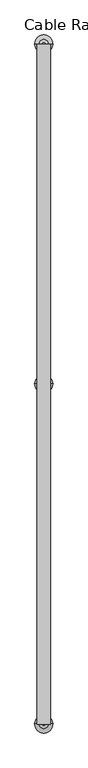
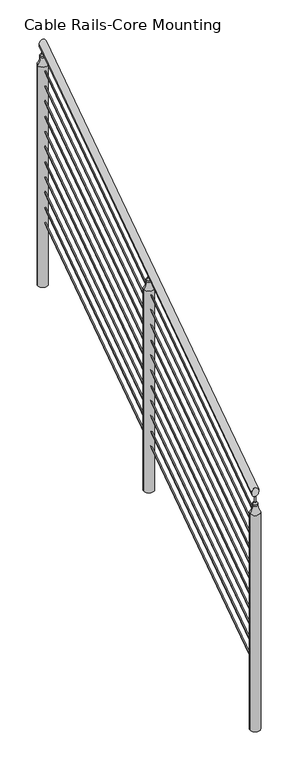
"""IFC4 building model written with IfcOpenShell, lengths in millimetres: railing geometry, Cable Rails-Core Mounting."""

import ifcopenshell
import ifcopenshell.guid

model = None  # the IFC model being written
_history = None  # IfcOwnerHistory: only IFC2X3 demands one
_inside = {}  # id of a spatial element -> (the spatial element, [elements in it])
_under = {}  # id of a project, library or spatial element -> (it, [spatial elements below it])
_declared = {}  # id of a project -> (the project, [libraries it declares])
_typed = {}  # id of a type object -> (the type object, [elements of that type])
_made_of = {}  # id of a material, layer set ... -> (it, [elements and type objects made of it])


def new_model(schema):
    """Start an empty IFC model of exactly this schema.

    Asked for "IFC4X3", IfcOpenShell would pick the latest addendum, in which some entities
    have other attributes; the version numbers below select the first issue.
    IFC2X3 requires an IfcOwnerHistory on every rooted entity: one is made here for all.
    """
    global model, _history
    if schema == "IFC4X3":
        model = ifcopenshell.file(schema_version=(4, 3, 0, 0))
    else:
        model = ifcopenshell.file(schema=schema)
    _inside.clear()
    _under.clear()
    _declared.clear()
    _typed.clear()
    _made_of.clear()
    _history = None
    if model.schema == "IFC2X3":
        org = make("IfcOrganization", Name="unknown")
        user = make(
            "IfcPersonAndOrganization",
            ThePerson=make("IfcPerson", FamilyName="unknown"),
            TheOrganization=org,
        )
        app = make(
            "IfcApplication",
            ApplicationDeveloper=org,
            Version="unknown",
            ApplicationFullName="unknown",
            ApplicationIdentifier="unknown",
        )
        _history = make(
            "IfcOwnerHistory",
            OwningUser=user,
            OwningApplication=app,
            ChangeAction="ADDED",
            CreationDate=0,
        )
    return model


def make(cls, **values):
    """One entity of the class cls with the attributes given. An attribute that is None is left unset."""
    return model.create_entity(
        cls, **{name: value for name, value in values.items() if value is not None}
    )


def rooted(cls, **values):
    """An entity with a GlobalId (a new one), such as an element, a storey or a relation."""
    return make(cls, GlobalId=ifcopenshell.guid.new(), OwnerHistory=_history, **values)


def si_unit(unit_type, name, prefix=None):
    """IfcSIUnit, for example si_unit("LENGTHUNIT", "METRE", prefix="MILLI")."""
    return make("IfcSIUnit", UnitType=unit_type, Prefix=prefix, Name=name)


def assignment(units):
    """IfcUnitAssignment: the units of a project."""
    return None if units is None else make("IfcUnitAssignment", Units=units)


def point(xyz):
    """IfcCartesianPoint."""
    return None if xyz is None else make("IfcCartesianPoint", Coordinates=xyz)


def direction(xyz):
    """IfcDirection."""
    return None if xyz is None else make("IfcDirection", DirectionRatios=xyz)


def frame(location, z_axis=None, x_axis=None):
    """IfcAxis2Placement3D, a coordinate frame: its origin and axes. An axis left out is left unset."""
    return make(
        "IfcAxis2Placement3D",
        Location=point(location),
        Axis=direction(z_axis),
        RefDirection=direction(x_axis),
    )


def origin():
    """The frame at (0, 0, 0) with its axes left unset."""
    return frame((0.0, 0.0, 0.0))


def place(relative_to, where):
    """IfcLocalPlacement: puts the frame where relative to a parent placement (None: the world)."""
    return make(
        "IfcLocalPlacement", PlacementRelTo=relative_to, RelativePlacement=where
    )


def context(
    kind, dimensions, precision=None, world=None, true_north=None, identifier=None
):
    """IfcGeometricRepresentationContext, for example the 3D "Model" context."""
    return make(
        "IfcGeometricRepresentationContext",
        ContextIdentifier=identifier,
        ContextType=kind,
        CoordinateSpaceDimension=dimensions,
        Precision=precision,
        WorldCoordinateSystem=world,
        TrueNorth=true_north,
    )


def project(units=None, contexts=None):
    """IfcProject with its units and contexts."""
    return rooted(
        "IfcProject",
        Name="project",
        RepresentationContexts=contexts,
        UnitsInContext=assignment(units),
    )


def spatial(cls, under=None, at=None, **own):
    """A site, building, storey or space (cls), placed at a placement, below another one or the project."""
    s = rooted(cls, ObjectPlacement=at, **own)
    if under is not None:
        _under.setdefault(under.id(), (under, []))[1].append(s)
    return s


def circle_curve(where, radius):
    """IfcCircle in the frame where."""
    return make("IfcCircle", Position=where, Radius=radius)


def ellipse_curve(where, semi_axis1, semi_axis2):
    """IfcEllipse in the frame where."""
    return make(
        "IfcEllipse", Position=where, SemiAxis1=semi_axis1, SemiAxis2=semi_axis2
    )


def trimmed(basis, trim1, trim2, sense, master):
    """IfcTrimmedCurve: the piece of a basis curve between two trims."""
    return make(
        "IfcTrimmedCurve",
        BasisCurve=basis,
        Trim1=trim1,
        Trim2=trim2,
        SenseAgreement=sense,
        MasterRepresentation=master,
    )


def shape(context_of_items, identifier, shape_type, items):
    """IfcShapeRepresentation: the items that make up one representation, for example the "Body"."""
    return make(
        "IfcShapeRepresentation",
        ContextOfItems=context_of_items,
        RepresentationIdentifier=identifier,
        RepresentationType=shape_type,
        Items=items,
    )


def source(mapping_origin, context_of_items, identifier, shape_type, items):
    """IfcRepresentationMap: a shape defined once, which mapped items show again and again."""
    return make(
        "IfcRepresentationMap",
        MappingOrigin=mapping_origin,
        MappedRepresentation=shape(context_of_items, identifier, shape_type, items),
    )


def transform(
    local_origin,
    x_axis=None,
    y_axis=None,
    z_axis=None,
    scale=None,
    scale2=None,
    scale3=None,
    uniform=True,
):
    """IfcCartesianTransformationOperator3D, or its non-uniform kind. x_axis, y_axis, z_axis: its Axis1, 2, 3."""
    if uniform:
        return make(
            "IfcCartesianTransformationOperator3D",
            Axis1=direction(x_axis),
            Axis2=direction(y_axis),
            LocalOrigin=point(local_origin),
            Scale=scale,
            Axis3=direction(z_axis),
        )
    return make(
        "IfcCartesianTransformationOperator3DnonUniform",
        Axis1=direction(x_axis),
        Axis2=direction(y_axis),
        LocalOrigin=point(local_origin),
        Scale=scale,
        Axis3=direction(z_axis),
        Scale2=scale2,
        Scale3=scale3,
    )


def mapped(mapping_source, mapping_target):
    """IfcMappedItem: shows the shape of a source again, moved by a transform."""
    return make(
        "IfcMappedItem", MappingSource=mapping_source, MappingTarget=mapping_target
    )


def made_of(thing, what):
    """Note that an element or type object is made of a material, layer set ...; save() writes the relation."""
    if what is not None:
        _made_of.setdefault(what.id(), (what, []))[1].append(thing)
    return thing


def element(
    cls,
    number,
    at=None,
    inside=None,
    cuts=None,
    type_object=None,
    material=None,
    context=None,
    identifier="Body",
    shape_type=None,
    held_by="IfcProductDefinitionShape",
    body=None,
    shapes=None,
    **own,
):
    """One element of the class cls, such as IfcWall. Its Tag is "e" and its number.

    at: its placement. inside: the storey or other place that contains it. cuts: it is an
    opening in that element (IfcRelVoidsElement). A single representation is given by context,
    identifier, shape_type and body (its items); several are given by shapes. held_by: the class
    of the entity that holds the representations. save() writes the other relations.
    """
    e = rooted(cls, Tag="e%d" % number, ObjectPlacement=at, **own)
    if body is not None:
        shapes = [shape(context, identifier, shape_type, body)]
    if shapes is not None:
        e.Representation = make(held_by, Representations=shapes)
    if inside is not None:
        _inside.setdefault(inside.id(), (inside, []))[1].append(e)
    if cuts is not None:
        rooted(
            "IfcRelVoidsElement", RelatingBuildingElement=cuts, RelatedOpeningElement=e
        )
    if type_object is not None:
        _typed.setdefault(type_object.id(), (type_object, []))[1].append(e)
    return made_of(e, material)


def aggregate(whole, parts):
    """IfcRelAggregates: a whole, such as a stair, and the parts it consists of."""
    return rooted("IfcRelAggregates", RelatingObject=whole, RelatedObjects=parts)


def save(model, path):
    """Write the relations noted so far, then the file.

    IfcRelAggregates (storeys below a building ...), IfcRelContainedInSpatialStructure (elements
    in a storey), IfcRelDefinesByType, IfcRelAssociatesMaterial and IfcRelDeclares: one each for
    every whole, place, type object, material and project.
    """
    for whole, parts in _under.values():
        aggregate(whole, parts)
    for where, things in _inside.values():
        rooted(
            "IfcRelContainedInSpatialStructure",
            RelatedElements=things,
            RelatingStructure=where,
        )
    for kind, things in _typed.values():
        rooted("IfcRelDefinesByType", RelatedObjects=things, RelatingType=kind)
    for what, things in _made_of.values():
        rooted("IfcRelAssociatesMaterial", RelatedObjects=things, RelatingMaterial=what)
    for by, libraries in _declared.values():
        rooted("IfcRelDeclares", RelatingContext=by, RelatedDefinitions=libraries)
    model.write(path)


def plane_surface(at):
    """IfcPlane: the flat surface through the origin of the frame at, square to its z axis."""
    return make("IfcPlane", Position=at)


def cylinder_surface(at, radius):
    """IfcCylindricalSurface: all points at the distance radius from the z axis of the frame at."""
    return make("IfcCylindricalSurface", Position=at, Radius=radius)


def revolved_surface(curve, axis_point, axis_direction):
    """IfcSurfaceOfRevolution: the curve turned about the line through axis_point along axis_direction."""
    return make(
        "IfcSurfaceOfRevolution",
        SweptCurve=make("IfcArbitraryOpenProfileDef", ProfileType="CURVE", Curve=curve),
        AxisPosition=make("IfcAxis1Placement", Location=point(axis_point), Axis=direction(axis_direction)),
    )


def advanced_brep(points, edges, surfaces, faces):
    """IfcAdvancedBrep: a solid bounded by faces that lie on surfaces and meet in shared edges.

    An edge is (start, end): straight between two places in points (the first is 0);
    or (start, end, curve); or (start, end, curve, False) where it runs against its curve.
    A face is (place in surfaces, loops), or (place, loops, False) where it looks against
    its surface's normal. A loop lists edges by number (the first is 1), with a minus sign
    where the edge is run from its end to its start. The first loop is the outer one.
    """
    corners = [point(p) for p in points]
    vertices = [make("IfcVertexPoint", VertexGeometry=c) for c in corners]
    made = []
    for start, end, *more in edges:
        made.append(
            make(
                "IfcEdgeCurve",
                EdgeStart=vertices[start],
                EdgeEnd=vertices[end],
                EdgeGeometry=more[0] if more else make("IfcPolyline", Points=[corners[start], corners[end]]),
                SameSense=more[1] if len(more) > 1 else True,
            )
        )
    hull = []
    for where, loops, *sense in faces:
        bounds = []
        for j, loop in enumerate(loops):
            ring = [make("IfcOrientedEdge", EdgeElement=made[abs(k) - 1], Orientation=k > 0) for k in loop]
            bounds.append(
                make(
                    "IfcFaceOuterBound" if j == 0 else "IfcFaceBound",
                    Bound=make("IfcEdgeLoop", EdgeList=ring),
                    Orientation=True,
                )
            )
        hull.append(make("IfcAdvancedFace", Bounds=bounds, FaceSurface=surfaces[where], SameSense=sense[0] if sense else True))
    return make("IfcAdvancedBrep", Outer=make("IfcClosedShell", CfsFaces=hull))


def cable_rails_core_mounting_428c031e(model_context):
    return source(origin(), model_context, "Body", "AdvancedBrep", [
        advanced_brep(
        [(-10574.4554092, -3318.9650713, 2829.8170412), (-10536.3554092, -3318.9650713, 2829.8170412), (-10574.4554092, -1420.3150713, 4119.5162709), (-10536.3554092, -1420.3150713, 4119.5162709)],
        [
            (0, 1, ellipse_curve(frame((-10555.4054092, -3318.9650713, 2829.8170412), z_axis=(0.0, -1.0, 0.0), x_axis=(0.0, 0.0, -1.0)), 23.0293153, 19.05)),
            (1, 0, ellipse_curve(frame((-10555.4054092, -3318.9650713, 2829.8170412), z_axis=(0.0, -1.0, 0.0), x_axis=(0.0, 0.0, -1.0)), 23.0293153, 19.05)),
            (2, 3, ellipse_curve(frame((-10555.4054092, -1420.3150713, 4119.5162709), z_axis=(0.0, 1.0, 0.0), x_axis=(0.0, 0.0, -1.0)), 23.0293153, 19.05)),
            (3, 2, ellipse_curve(frame((-10555.4054092, -1420.3150713, 4119.5162709), z_axis=(0.0, 1.0, 0.0), x_axis=(0.0, 0.0, -1.0)), 23.0293153, 19.05)),
            (0, 2),
            (3, 1),
        ],
        [
            plane_surface(frame((-10555.4054092, -3318.9650713, 2852.8463565), z_axis=(0.0, -1.0, 0.0), x_axis=(0.0, 0.0, 1.0))),
            plane_surface(frame((-10555.4054092, -1420.3150713, 4142.5455862), z_axis=(0.0, 1.0, 0.0), x_axis=(0.0, 0.0, 1.0))),
            cylinder_surface(frame((-10555.4054092, -3308.2609145, 2837.0880721), z_axis=(0.0, -0.8272065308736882, -0.5618979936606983), x_axis=(1.0, 0.0, 0.0)), 19.05),
        ],
        [
            (0, [[1, 2]]),
            (1, [[3, 4]]),
            (2, [[-1, 5, -4, 6]]),
            (2, [[-2, -6, -3, -5]]),
        ],
    ),
        advanced_brep(
        [(-10558.5804092, -3318.9650713, 2709.3081373), (-10552.2304092, -3318.9650713, 2709.3081373), (-10558.5804092, -1420.3150713, 3999.007367), (-10552.2304092, -1420.3150713, 3999.007367)],
        [
            (0, 1, ellipse_curve(frame((-10555.4054092, -3318.9650713, 2709.3081373), z_axis=(0.0, -1.0, 0.0), x_axis=(0.0, 0.0, -1.0)), 3.8382192, 3.175)),
            (1, 0, ellipse_curve(frame((-10555.4054092, -3318.9650713, 2709.3081373), z_axis=(0.0, -1.0, 0.0), x_axis=(0.0, 0.0, -1.0)), 3.8382192, 3.175)),
            (2, 3, ellipse_curve(frame((-10555.4054092, -1420.3150713, 3999.007367), z_axis=(0.0, 1.0, 0.0), x_axis=(0.0, 0.0, -1.0)), 3.8382192, 3.175)),
            (3, 2, ellipse_curve(frame((-10555.4054092, -1420.3150713, 3999.007367), z_axis=(0.0, 1.0, 0.0), x_axis=(0.0, 0.0, -1.0)), 3.8382192, 3.175)),
            (0, 2),
            (3, 1),
        ],
        [
            plane_surface(frame((-10555.4054092, -3318.9650713, 2713.1463565), z_axis=(0.0, -1.0, 0.0), x_axis=(0.0, 0.0, 1.0))),
            plane_surface(frame((-10555.4054092, -1420.3150713, 4002.8455862), z_axis=(0.0, 1.0, 0.0), x_axis=(0.0, 0.0, 1.0))),
            cylinder_surface(frame((-10555.4054092, -3317.1810451, 2710.5199758), z_axis=(0.0, -0.8272065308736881, -0.5618979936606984), x_axis=(1.0, 0.0, 0.0)), 3.175),
        ],
        [
            (0, [[1, 2]]),
            (1, [[3, 4]]),
            (2, [[-1, 5, -4, 6]]),
            (2, [[-2, -6, -3, -5]]),
        ],
    ),
        advanced_brep(
        [(-10558.5804092, -3318.9650713, 2626.7581373), (-10552.2304092, -3318.9650713, 2626.7581373), (-10558.5804092, -1420.3150713, 3916.457367), (-10552.2304092, -1420.3150713, 3916.457367)],
        [
            (0, 1, ellipse_curve(frame((-10555.4054092, -3318.9650713, 2626.7581373), z_axis=(0.0, -1.0, 0.0), x_axis=(0.0, 0.0, -1.0)), 3.8382192, 3.175)),
            (1, 0, ellipse_curve(frame((-10555.4054092, -3318.9650713, 2626.7581373), z_axis=(0.0, -1.0, 0.0), x_axis=(0.0, 0.0, -1.0)), 3.8382192, 3.175)),
            (2, 3, ellipse_curve(frame((-10555.4054092, -1420.3150713, 3916.457367), z_axis=(0.0, 1.0, 0.0), x_axis=(0.0, 0.0, -1.0)), 3.8382192, 3.175)),
            (3, 2, ellipse_curve(frame((-10555.4054092, -1420.3150713, 3916.457367), z_axis=(0.0, 1.0, 0.0), x_axis=(0.0, 0.0, -1.0)), 3.8382192, 3.175)),
            (0, 2),
            (3, 1),
        ],
        [
            plane_surface(frame((-10555.4054092, -3318.9650713, 2630.5963565), z_axis=(0.0, -1.0, 0.0), x_axis=(0.0, 0.0, 1.0))),
            plane_surface(frame((-10555.4054092, -1420.3150713, 3920.2955862), z_axis=(0.0, 1.0, 0.0), x_axis=(0.0, 0.0, 1.0))),
            cylinder_surface(frame((-10555.4054092, -3317.1810451, 2627.9699758), z_axis=(0.0, -0.8272065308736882, -0.5618979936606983), x_axis=(1.0, 0.0, 0.0)), 3.175),
        ],
        [
            (0, [[1, 2]]),
            (1, [[3, 4]]),
            (2, [[-1, 5, -4, 6]]),
            (2, [[-2, -6, -3, -5]]),
        ],
    ),
        advanced_brep(
        [(-10558.5804092, -3318.9650713, 2544.2081373), (-10552.2304092, -3318.9650713, 2544.2081373), (-10558.5804092, -1420.3150713, 3833.907367), (-10552.2304092, -1420.3150713, 3833.907367)],
        [
            (0, 1, ellipse_curve(frame((-10555.4054092, -3318.9650713, 2544.2081373), z_axis=(0.0, -1.0, 0.0), x_axis=(0.0, 0.0, -1.0)), 3.8382192, 3.175)),
            (1, 0, ellipse_curve(frame((-10555.4054092, -3318.9650713, 2544.2081373), z_axis=(0.0, -1.0, 0.0), x_axis=(0.0, 0.0, -1.0)), 3.8382192, 3.175)),
            (2, 3, ellipse_curve(frame((-10555.4054092, -1420.3150713, 3833.907367), z_axis=(0.0, 1.0, 0.0), x_axis=(0.0, 0.0, -1.0)), 3.8382192, 3.175)),
            (3, 2, ellipse_curve(frame((-10555.4054092, -1420.3150713, 3833.907367), z_axis=(0.0, 1.0, 0.0), x_axis=(0.0, 0.0, -1.0)), 3.8382192, 3.175)),
            (0, 2),
            (3, 1),
        ],
        [
            plane_surface(frame((-10555.4054092, -3318.9650713, 2548.0463565), z_axis=(0.0, -1.0, 0.0), x_axis=(0.0, 0.0, 1.0))),
            plane_surface(frame((-10555.4054092, -1420.3150713, 3837.7455862), z_axis=(0.0, 1.0, 0.0), x_axis=(0.0, 0.0, 1.0))),
            cylinder_surface(frame((-10555.4054092, -3317.1810451, 2545.4199758), z_axis=(0.0, -0.8272065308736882, -0.5618979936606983), x_axis=(1.0, 0.0, 0.0)), 3.175),
        ],
        [
            (0, [[1, 2]]),
            (1, [[3, 4]]),
            (2, [[-1, 5, -4, 6]]),
            (2, [[-2, -6, -3, -5]]),
        ],
    ),
        advanced_brep(
        [(-10558.5804092, -3318.9650713, 2461.6581373), (-10552.2304092, -3318.9650713, 2461.6581373), (-10558.5804092, -1420.3150713, 3751.357367), (-10552.2304092, -1420.3150713, 3751.357367)],
        [
            (0, 1, ellipse_curve(frame((-10555.4054092, -3318.9650713, 2461.6581373), z_axis=(0.0, -1.0, 0.0), x_axis=(0.0, 0.0, -1.0)), 3.8382192, 3.175)),
            (1, 0, ellipse_curve(frame((-10555.4054092, -3318.9650713, 2461.6581373), z_axis=(0.0, -1.0, 0.0), x_axis=(0.0, 0.0, -1.0)), 3.8382192, 3.175)),
            (2, 3, ellipse_curve(frame((-10555.4054092, -1420.3150713, 3751.357367), z_axis=(0.0, 1.0, 0.0), x_axis=(0.0, 0.0, -1.0)), 3.8382192, 3.175)),
            (3, 2, ellipse_curve(frame((-10555.4054092, -1420.3150713, 3751.357367), z_axis=(0.0, 1.0, 0.0), x_axis=(0.0, 0.0, -1.0)), 3.8382192, 3.175)),
            (0, 2),
            (3, 1),
        ],
        [
            plane_surface(frame((-10555.4054092, -3318.9650713, 2465.4963565), z_axis=(0.0, -1.0, 0.0), x_axis=(0.0, 0.0, 1.0))),
            plane_surface(frame((-10555.4054092, -1420.3150713, 3755.1955862), z_axis=(0.0, 1.0, 0.0), x_axis=(0.0, 0.0, 1.0))),
            cylinder_surface(frame((-10555.4054092, -3317.1810451, 2462.8699758), z_axis=(0.0, -0.8272065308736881, -0.5618979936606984), x_axis=(1.0, 0.0, 0.0)), 3.175),
        ],
        [
            (0, [[1, 2]]),
            (1, [[3, 4]]),
            (2, [[-1, 5, -4, 6]]),
            (2, [[-2, -6, -3, -5]]),
        ],
    ),
        advanced_brep(
        [(-10558.5804092, -3318.9650713, 2379.1081373), (-10552.2304092, -3318.9650713, 2379.1081373), (-10558.5804092, -1420.3150713, 3668.807367), (-10552.2304092, -1420.3150713, 3668.807367)],
        [
            (0, 1, ellipse_curve(frame((-10555.4054092, -3318.9650713, 2379.1081373), z_axis=(0.0, -1.0, 0.0), x_axis=(0.0, 0.0, -1.0)), 3.8382192, 3.175)),
            (1, 0, ellipse_curve(frame((-10555.4054092, -3318.9650713, 2379.1081373), z_axis=(0.0, -1.0, 0.0), x_axis=(0.0, 0.0, -1.0)), 3.8382192, 3.175)),
            (2, 3, ellipse_curve(frame((-10555.4054092, -1420.3150713, 3668.807367), z_axis=(0.0, 1.0, 0.0), x_axis=(0.0, 0.0, -1.0)), 3.8382192, 3.175)),
            (3, 2, ellipse_curve(frame((-10555.4054092, -1420.3150713, 3668.807367), z_axis=(0.0, 1.0, 0.0), x_axis=(0.0, 0.0, -1.0)), 3.8382192, 3.175)),
            (0, 2),
            (3, 1),
        ],
        [
            plane_surface(frame((-10555.4054092, -3318.9650713, 2382.9463565), z_axis=(0.0, -1.0, 0.0), x_axis=(0.0, 0.0, 1.0))),
            plane_surface(frame((-10555.4054092, -1420.3150713, 3672.6455862), z_axis=(0.0, 1.0, 0.0), x_axis=(0.0, 0.0, 1.0))),
            cylinder_surface(frame((-10555.4054092, -3317.1810451, 2380.3199758), z_axis=(0.0, -0.8272065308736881, -0.5618979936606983), x_axis=(1.0, 0.0, 0.0)), 3.175),
        ],
        [
            (0, [[1, 2]]),
            (1, [[3, 4]]),
            (2, [[-1, 5, -4, 6]]),
            (2, [[-2, -6, -3, -5]]),
        ],
    ),
        advanced_brep(
        [(-10558.5804092, -3318.9650713, 2296.5581373), (-10552.2304092, -3318.9650713, 2296.5581373), (-10558.5804092, -1420.3150713, 3586.257367), (-10552.2304092, -1420.3150713, 3586.257367)],
        [
            (0, 1, ellipse_curve(frame((-10555.4054092, -3318.9650713, 2296.5581373), z_axis=(0.0, -1.0, 0.0), x_axis=(0.0, 0.0, -1.0)), 3.8382192, 3.175)),
            (1, 0, ellipse_curve(frame((-10555.4054092, -3318.9650713, 2296.5581373), z_axis=(0.0, -1.0, 0.0), x_axis=(0.0, 0.0, -1.0)), 3.8382192, 3.175)),
            (2, 3, ellipse_curve(frame((-10555.4054092, -1420.3150713, 3586.257367), z_axis=(0.0, 1.0, 0.0), x_axis=(0.0, 0.0, -1.0)), 3.8382192, 3.175)),
            (3, 2, ellipse_curve(frame((-10555.4054092, -1420.3150713, 3586.257367), z_axis=(0.0, 1.0, 0.0), x_axis=(0.0, 0.0, -1.0)), 3.8382192, 3.175)),
            (0, 2),
            (3, 1),
        ],
        [
            plane_surface(frame((-10555.4054092, -3318.9650713, 2300.3963565), z_axis=(0.0, -1.0, 0.0), x_axis=(0.0, 0.0, 1.0))),
            plane_surface(frame((-10555.4054092, -1420.3150713, 3590.0955862), z_axis=(0.0, 1.0, 0.0), x_axis=(0.0, 0.0, 1.0))),
            cylinder_surface(frame((-10555.4054092, -3317.1810451, 2297.7699758), z_axis=(0.0, -0.8272065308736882, -0.5618979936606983), x_axis=(1.0, 0.0, 0.0)), 3.175),
        ],
        [
            (0, [[1, 2]]),
            (1, [[3, 4]]),
            (2, [[-1, 5, -4, 6]]),
            (2, [[-2, -6, -3, -5]]),
        ],
    ),
        advanced_brep(
        [(-10558.5804092, -3318.9650713, 2214.0081373), (-10552.2304092, -3318.9650713, 2214.0081373), (-10558.5804092, -1420.3150713, 3503.707367), (-10552.2304092, -1420.3150713, 3503.707367)],
        [
            (0, 1, ellipse_curve(frame((-10555.4054092, -3318.9650713, 2214.0081373), z_axis=(0.0, -1.0, 0.0), x_axis=(0.0, 0.0, -1.0)), 3.8382192, 3.175)),
            (1, 0, ellipse_curve(frame((-10555.4054092, -3318.9650713, 2214.0081373), z_axis=(0.0, -1.0, 0.0), x_axis=(0.0, 0.0, -1.0)), 3.8382192, 3.175)),
            (2, 3, ellipse_curve(frame((-10555.4054092, -1420.3150713, 3503.707367), z_axis=(0.0, 1.0, 0.0), x_axis=(0.0, 0.0, -1.0)), 3.8382192, 3.175)),
            (3, 2, ellipse_curve(frame((-10555.4054092, -1420.3150713, 3503.707367), z_axis=(0.0, 1.0, 0.0), x_axis=(0.0, 0.0, -1.0)), 3.8382192, 3.175)),
            (0, 2),
            (3, 1),
        ],
        [
            plane_surface(frame((-10555.4054092, -3318.9650713, 2217.8463565), z_axis=(0.0, -1.0, 0.0), x_axis=(0.0, 0.0, 1.0))),
            plane_surface(frame((-10555.4054092, -1420.3150713, 3507.5455862), z_axis=(0.0, 1.0, 0.0), x_axis=(0.0, 0.0, 1.0))),
            cylinder_surface(frame((-10555.4054092, -3317.1810451, 2215.2199758), z_axis=(0.0, -0.8272065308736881, -0.5618979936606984), x_axis=(1.0, 0.0, 0.0)), 3.175),
        ],
        [
            (0, [[1, 2]]),
            (1, [[3, 4]]),
            (2, [[-1, 5, -4, 6]]),
            (2, [[-2, -6, -3, -5]]),
        ],
    ),
        advanced_brep(
        [(-10558.5804092, -3318.9650713, 2131.4581373), (-10552.2304092, -3318.9650713, 2131.4581373), (-10558.5804092, -1420.3150713, 3421.157367), (-10552.2304092, -1420.3150713, 3421.157367)],
        [
            (0, 1, ellipse_curve(frame((-10555.4054092, -3318.9650713, 2131.4581373), z_axis=(0.0, -1.0, 0.0), x_axis=(0.0, 0.0, -1.0)), 3.8382192, 3.175)),
            (1, 0, ellipse_curve(frame((-10555.4054092, -3318.9650713, 2131.4581373), z_axis=(0.0, -1.0, 0.0), x_axis=(0.0, 0.0, -1.0)), 3.8382192, 3.175)),
            (2, 3, ellipse_curve(frame((-10555.4054092, -1420.3150713, 3421.157367), z_axis=(0.0, 1.0, 0.0), x_axis=(0.0, 0.0, -1.0)), 3.8382192, 3.175)),
            (3, 2, ellipse_curve(frame((-10555.4054092, -1420.3150713, 3421.157367), z_axis=(0.0, 1.0, 0.0), x_axis=(0.0, 0.0, -1.0)), 3.8382192, 3.175)),
            (0, 2),
            (3, 1),
        ],
        [
            plane_surface(frame((-10555.4054092, -3318.9650713, 2135.2963565), z_axis=(0.0, -1.0, 0.0), x_axis=(0.0, 0.0, 1.0))),
            plane_surface(frame((-10555.4054092, -1420.3150713, 3424.9955862), z_axis=(0.0, 1.0, 0.0), x_axis=(0.0, 0.0, 1.0))),
            cylinder_surface(frame((-10555.4054092, -3317.1810451, 2132.6699758), z_axis=(0.0, -0.8272065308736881, -0.5618979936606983), x_axis=(1.0, 0.0, 0.0)), 3.175),
        ],
        [
            (0, [[1, 2]]),
            (1, [[3, 4]]),
            (2, [[-1, 5, -4, 6]]),
            (2, [[-2, -6, -3, -5]]),
        ],
    ),
        advanced_brep(
        [(-10558.5804092, -3318.9650713, 2048.9081373), (-10552.2304092, -3318.9650713, 2048.9081373), (-10558.5804092, -1420.3150713, 3338.607367), (-10552.2304092, -1420.3150713, 3338.607367)],
        [
            (0, 1, ellipse_curve(frame((-10555.4054092, -3318.9650713, 2048.9081373), z_axis=(0.0, -1.0, 0.0), x_axis=(0.0, 0.0, -1.0)), 3.8382192, 3.175)),
            (1, 0, ellipse_curve(frame((-10555.4054092, -3318.9650713, 2048.9081373), z_axis=(0.0, -1.0, 0.0), x_axis=(0.0, 0.0, -1.0)), 3.8382192, 3.175)),
            (2, 3, ellipse_curve(frame((-10555.4054092, -1420.3150713, 3338.607367), z_axis=(0.0, 1.0, 0.0), x_axis=(0.0, 0.0, -1.0)), 3.8382192, 3.175)),
            (3, 2, ellipse_curve(frame((-10555.4054092, -1420.3150713, 3338.607367), z_axis=(0.0, 1.0, 0.0), x_axis=(0.0, 0.0, -1.0)), 3.8382192, 3.175)),
            (0, 2),
            (3, 1),
        ],
        [
            plane_surface(frame((-10555.4054092, -3318.9650713, 2052.7463565), z_axis=(0.0, -1.0, 0.0), x_axis=(0.0, 0.0, 1.0))),
            plane_surface(frame((-10555.4054092, -1420.3150713, 3342.4455862), z_axis=(0.0, 1.0, 0.0), x_axis=(0.0, 0.0, 1.0))),
            cylinder_surface(frame((-10555.4054092, -3317.1810451, 2050.1199758), z_axis=(0.0, -0.8272065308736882, -0.5618979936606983), x_axis=(1.0, 0.0, 0.0)), 3.175),
        ],
        [
            (0, [[1, 2]]),
            (1, [[3, 4]]),
            (2, [[-1, 5, -4, 6]]),
            (2, [[-2, -6, -3, -5]]),
        ],
    ),
        advanced_brep(
        [(-10558.5804092, -3318.9650713, 1966.3581373), (-10552.2304092, -3318.9650713, 1966.3581373), (-10558.5804092, -1420.3150713, 3256.057367), (-10552.2304092, -1420.3150713, 3256.057367)],
        [
            (0, 1, ellipse_curve(frame((-10555.4054092, -3318.9650713, 1966.3581373), z_axis=(0.0, -1.0, 0.0), x_axis=(0.0, 0.0, -1.0)), 3.8382192, 3.175)),
            (1, 0, ellipse_curve(frame((-10555.4054092, -3318.9650713, 1966.3581373), z_axis=(0.0, -1.0, 0.0), x_axis=(0.0, 0.0, -1.0)), 3.8382192, 3.175)),
            (2, 3, ellipse_curve(frame((-10555.4054092, -1420.3150713, 3256.057367), z_axis=(0.0, 1.0, 0.0), x_axis=(0.0, 0.0, -1.0)), 3.8382192, 3.175)),
            (3, 2, ellipse_curve(frame((-10555.4054092, -1420.3150713, 3256.057367), z_axis=(0.0, 1.0, 0.0), x_axis=(0.0, 0.0, -1.0)), 3.8382192, 3.175)),
            (0, 2),
            (3, 1),
        ],
        [
            plane_surface(frame((-10555.4054092, -3318.9650713, 1970.1963565), z_axis=(0.0, -1.0, 0.0), x_axis=(0.0, 0.0, 1.0))),
            plane_surface(frame((-10555.4054092, -1420.3150713, 3259.8955862), z_axis=(0.0, 1.0, 0.0), x_axis=(0.0, 0.0, 1.0))),
            cylinder_surface(frame((-10555.4054092, -3317.1810451, 1967.5699758), z_axis=(0.0, -0.8272065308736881, -0.5618979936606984), x_axis=(1.0, 0.0, 0.0)), 3.175),
        ],
        [
            (0, [[1, 2]]),
            (1, [[3, 4]]),
            (2, [[-1, 5, -4, 6]]),
            (2, [[-2, -6, -3, -5]]),
        ],
    ),
        advanced_brep(
        [(-10558.5804092, -3318.9650713, 1883.8081373), (-10552.2304092, -3318.9650713, 1883.8081373), (-10558.5804092, -1420.3150713, 3173.507367), (-10552.2304092, -1420.3150713, 3173.507367)],
        [
            (0, 1, ellipse_curve(frame((-10555.4054092, -3318.9650713, 1883.8081373), z_axis=(0.0, -1.0, 0.0), x_axis=(0.0, 0.0, -1.0)), 3.8382192, 3.175)),
            (1, 0, ellipse_curve(frame((-10555.4054092, -3318.9650713, 1883.8081373), z_axis=(0.0, -1.0, 0.0), x_axis=(0.0, 0.0, -1.0)), 3.8382192, 3.175)),
            (2, 3, ellipse_curve(frame((-10555.4054092, -1420.3150713, 3173.507367), z_axis=(0.0, 1.0, 0.0), x_axis=(0.0, 0.0, -1.0)), 3.8382192, 3.175)),
            (3, 2, ellipse_curve(frame((-10555.4054092, -1420.3150713, 3173.507367), z_axis=(0.0, 1.0, 0.0), x_axis=(0.0, 0.0, -1.0)), 3.8382192, 3.175)),
            (0, 2),
            (3, 1),
        ],
        [
            plane_surface(frame((-10555.4054092, -3318.9650713, 1887.6463565), z_axis=(0.0, -1.0, 0.0), x_axis=(0.0, 0.0, 1.0))),
            plane_surface(frame((-10555.4054092, -1420.3150713, 3177.3455862), z_axis=(0.0, 1.0, 0.0), x_axis=(0.0, 0.0, 1.0))),
            cylinder_surface(frame((-10555.4054092, -3317.1810451, 1885.0199758), z_axis=(0.0, -0.8272065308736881, -0.5618979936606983), x_axis=(1.0, 0.0, 0.0)), 3.175),
        ],
        [
            (0, [[1, 2]]),
            (1, [[3, 4]]),
            (2, [[-1, 5, -4, 6]]),
            (2, [[-2, -6, -3, -5]]),
        ],
    ),
        advanced_brep(
        [(-10530.0060114, -2369.2431963, 3364.0721262), (-10580.804807, -2369.2431963, 3364.0721262), (-10580.804807, -2369.2431963, 2266.2029412), (-10530.0060114, -2369.2431963, 2266.2029412), (-10542.6674406, -2369.2431963, 3402.285961), (-10568.1433777, -2369.2431963, 3402.285961), (-10542.6674406, -2369.2431963, 3411.2690185), (-10568.1433777, -2369.2431963, 3411.2690185), (-10551.8059069, -2369.2431963, 3420.2276157), (-10559.0049114, -2369.2431963, 3420.2276157), (-10551.8059069, -2369.2431963, 3451.6373408), (-10559.0049114, -2369.2431963, 3451.6373408), (-10555.4054092, -2369.2431963, 3451.6373408), (-10555.4054092, -2369.2431963, 2266.2029412)],
        [
            (0, 1, circle_curve(frame((-10555.4054092, -2369.2431963, 3364.0721262), z_axis=(0.0, 0.0, -1.0), x_axis=(-1.0, 0.0, 0.0)), 25.3993978)),
            (1, 2),
            (2, 3, circle_curve(frame((-10555.4054092, -2369.2431963, 2266.2029412), z_axis=(0.0, 0.0, 1.0), x_axis=(-1.0, 0.0, 0.0)), 25.3993978)),
            (3, 0),
            (1, 0, circle_curve(frame((-10555.4054092, -2369.2431963, 3364.0721262), z_axis=(0.0, 0.0, -1.0), x_axis=(-1.0, 0.0, 0.0)), 25.3993978)),
            (3, 2, circle_curve(frame((-10555.4054092, -2369.2431963, 2266.2029412), z_axis=(0.0, 0.0, 1.0), x_axis=(-1.0, 0.0, 0.0)), 25.3993978)),
            (4, 5, circle_curve(frame((-10555.4054092, -2369.2431963, 3402.285961), z_axis=(0.0, 0.0, -1.0), x_axis=(-1.0, 0.0, 0.0)), 12.7379685)),
            (5, 1, circle_curve(frame((-10632.141246, -2369.2431963, 3402.285961), z_axis=(0.0, 1.0, 0.0), x_axis=(-1.0, 0.0, 0.0)), 63.9978683)),
            (0, 4, circle_curve(frame((-10478.6695723, -2369.2431963, 3402.285961), z_axis=(0.0, 1.0, 0.0), x_axis=(1.0, 0.0, 0.0)), 63.9978683)),
            (5, 4, circle_curve(frame((-10555.4054092, -2369.2431963, 3402.285961), z_axis=(0.0, 0.0, -1.0), x_axis=(-1.0, 0.0, 0.0)), 12.7379685)),
            (6, 7, circle_curve(frame((-10555.4054092, -2369.2431963, 3411.2690185), z_axis=(0.0, 0.0, -1.0), x_axis=(-1.0, 0.0, 0.0)), 12.7379685)),
            (7, 5),
            (4, 6),
            (7, 6, circle_curve(frame((-10555.4054092, -2369.2431963, 3411.2690185), z_axis=(0.0, 0.0, -1.0), x_axis=(-1.0, 0.0, 0.0)), 12.7379685)),
            (8, 9, circle_curve(frame((-10555.4054092, -2369.2431963, 3420.2276157), z_axis=(0.0, 0.0, -1.0), x_axis=(-1.0, 0.0, 0.0)), 3.5995022)),
            (9, 7, circle_curve(frame((-10555.3652833, -2369.2431963, 3407.3746398), z_axis=(0.0, -1.0, 0.0), x_axis=(-1.0, 0.0, 0.0)), 13.3583638)),
            (6, 8, circle_curve(frame((-10555.445535, -2369.2431963, 3407.3746398), z_axis=(0.0, -1.0, 0.0), x_axis=(1.0, 0.0, 0.0)), 13.3583638)),
            (9, 8, circle_curve(frame((-10555.4054092, -2369.2431963, 3420.2276157), z_axis=(0.0, 0.0, -1.0), x_axis=(-1.0, 0.0, 0.0)), 3.5995022)),
            (10, 11, circle_curve(frame((-10555.4054092, -2369.2431963, 3451.6373408), z_axis=(0.0, 0.0, -1.0), x_axis=(-1.0, 0.0, 0.0)), 3.5995022)),
            (11, 9),
            (8, 10),
            (11, 10, circle_curve(frame((-10555.4054092, -2369.2431963, 3451.6373408), z_axis=(0.0, 0.0, -1.0), x_axis=(-1.0, 0.0, 0.0)), 3.5995022)),
            (12, 11),
            (10, 12),
            (2, 13),
            (13, 3),
        ],
        [
            cylinder_surface(frame((-10555.4054092, -2369.2431963, 3527.8373408), z_axis=(0.0, 0.0, 1.0), x_axis=(-1.0, 0.0, 0.0)), 25.3993978),
            revolved_surface(trimmed(ellipse_curve(frame((-10632.141246, -2369.2431963, 3402.285961), z_axis=(0.0, -1.0, 0.0), x_axis=(-1.0, 0.0, 0.0)), 63.9978683, 63.9978683), [point((-10580.804807, -2369.2431963, 3364.0721262))], [point((-10568.1433777, -2369.2431963, 3402.285961))], True, "CARTESIAN"), (-10555.4054092, -2369.2431963, 3527.8373408), (0.0, 0.0, 1.0)),
            cylinder_surface(frame((-10555.4054092, -2369.2431963, 3527.8373408), z_axis=(0.0, 0.0, 1.0), x_axis=(-1.0, 0.0, 0.0)), 12.7379685),
            revolved_surface(trimmed(ellipse_curve(frame((-10555.3652833, -2369.2431963, 3407.3746398), z_axis=(0.0, 1.0, 0.0), x_axis=(-1.0, 0.0, 0.0)), 13.3583638, 13.3583638), [point((-10568.1433777, -2369.2431963, 3411.2690185))], [point((-10559.0049114, -2369.2431963, 3420.2276157))], True, "CARTESIAN"), (-10555.4054092, -2369.2431963, 3527.8373408), (0.0, 0.0, 1.0)),
            cylinder_surface(frame((-10555.4054092, -2369.2431963, 3527.8373408), z_axis=(0.0, 0.0, 1.0), x_axis=(-1.0, 0.0, 0.0)), 3.5995022),
            plane_surface(frame((-10555.4054092, -2369.2431963, 3451.6373408), z_axis=(0.0, 0.0, 1.0), x_axis=(-1.0, 0.0, 0.0))),
            plane_surface(frame((-10555.4054092, -2369.2431963, 2266.2029412), z_axis=(0.0, 0.0, -1.0), x_axis=(-1.0, 0.0, 0.0))),
        ],
        [
            (0, [[1, 2, 3, 4]]),
            (0, [[5, -4, 6, -2]]),
            (1, [[7, 8, -1, 9]]),
            (1, [[10, -9, -5, -8]]),
            (2, [[11, 12, -7, 13]]),
            (2, [[14, -13, -10, -12]]),
            (3, [[15, 16, -11, 17]]),
            (3, [[18, -17, -14, -16]]),
            (4, [[19, 20, -15, 21]]),
            (4, [[22, -21, -18, -20]]),
            (5, [[23, -19, 24]]),
            (5, [[-24, -22, -23]]),
            (6, [[-3, 25, 26]]),
            (6, [[-6, -26, -25]]),
        ],
    ),
        advanced_brep(
        [(-10530.0060114, -1419.9181963, 4008.921741), (-10580.804807, -1419.9181963, 4008.921741), (-10580.804807, -1419.9181963, 2809.6882353), (-10530.0060114, -1419.9181963, 2809.6882353), (-10542.6674406, -1419.9181963, 4047.1355759), (-10568.1433777, -1419.9181963, 4047.1355759), (-10542.6674406, -1419.9181963, 4056.1186334), (-10568.1433777, -1419.9181963, 4056.1186334), (-10551.8059069, -1419.9181963, 4065.0772305), (-10559.0049114, -1419.9181963, 4065.0772305), (-10551.8059069, -1419.9181963, 4096.4869557), (-10559.0049114, -1419.9181963, 4096.4869557), (-10555.4054092, -1419.9181963, 4096.4869557), (-10555.4054092, -1419.9181963, 2809.6882353)],
        [
            (0, 1, circle_curve(frame((-10555.4054092, -1419.9181963, 4008.921741), z_axis=(0.0, 0.0, -1.0), x_axis=(-1.0, 0.0, 0.0)), 25.3993978)),
            (1, 2),
            (2, 3, circle_curve(frame((-10555.4054092, -1419.9181963, 2809.6882353), z_axis=(0.0, 0.0, 1.0), x_axis=(-1.0, 0.0, 0.0)), 25.3993978)),
            (3, 0),
            (1, 0, circle_curve(frame((-10555.4054092, -1419.9181963, 4008.921741), z_axis=(0.0, 0.0, -1.0), x_axis=(-1.0, 0.0, 0.0)), 25.3993978)),
            (3, 2, circle_curve(frame((-10555.4054092, -1419.9181963, 2809.6882353), z_axis=(0.0, 0.0, 1.0), x_axis=(-1.0, 0.0, 0.0)), 25.3993978)),
            (4, 5, circle_curve(frame((-10555.4054092, -1419.9181963, 4047.1355759), z_axis=(0.0, 0.0, -1.0), x_axis=(-1.0, 0.0, 0.0)), 12.7379685)),
            (5, 1, circle_curve(frame((-10632.141246, -1419.9181963, 4047.1355759), z_axis=(0.0, 1.0, 0.0), x_axis=(-1.0, 0.0, 0.0)), 63.9978683)),
            (0, 4, circle_curve(frame((-10478.6695723, -1419.9181963, 4047.1355759), z_axis=(0.0, 1.0, 0.0), x_axis=(1.0, 0.0, 0.0)), 63.9978683)),
            (5, 4, circle_curve(frame((-10555.4054092, -1419.9181963, 4047.1355759), z_axis=(0.0, 0.0, -1.0), x_axis=(-1.0, 0.0, 0.0)), 12.7379685)),
            (6, 7, circle_curve(frame((-10555.4054092, -1419.9181963, 4056.1186334), z_axis=(0.0, 0.0, -1.0), x_axis=(-1.0, 0.0, 0.0)), 12.7379685)),
            (7, 5),
            (4, 6),
            (7, 6, circle_curve(frame((-10555.4054092, -1419.9181963, 4056.1186334), z_axis=(0.0, 0.0, -1.0), x_axis=(-1.0, 0.0, 0.0)), 12.7379685)),
            (8, 9, circle_curve(frame((-10555.4054092, -1419.9181963, 4065.0772305), z_axis=(0.0, 0.0, -1.0), x_axis=(-1.0, 0.0, 0.0)), 3.5995022)),
            (9, 7, circle_curve(frame((-10555.3652833, -1419.9181963, 4052.2242546), z_axis=(0.0, -1.0, 0.0), x_axis=(-1.0, 0.0, 0.0)), 13.3583638)),
            (6, 8, circle_curve(frame((-10555.445535, -1419.9181963, 4052.2242546), z_axis=(0.0, -1.0, 0.0), x_axis=(1.0, 0.0, 0.0)), 13.3583638)),
            (9, 8, circle_curve(frame((-10555.4054092, -1419.9181963, 4065.0772305), z_axis=(0.0, 0.0, -1.0), x_axis=(-1.0, 0.0, 0.0)), 3.5995022)),
            (10, 11, circle_curve(frame((-10555.4054092, -1419.9181963, 4096.4869557), z_axis=(0.0, 0.0, -1.0), x_axis=(-1.0, 0.0, 0.0)), 3.5995022)),
            (11, 9),
            (8, 10),
            (11, 10, circle_curve(frame((-10555.4054092, -1419.9181963, 4096.4869557), z_axis=(0.0, 0.0, -1.0), x_axis=(-1.0, 0.0, 0.0)), 3.5995022)),
            (12, 11),
            (10, 12),
            (2, 13),
            (13, 3),
        ],
        [
            cylinder_surface(frame((-10555.4054092, -1419.9181963, 4172.6869557), z_axis=(0.0, 0.0, 1.0), x_axis=(-1.0, 0.0, 0.0)), 25.3993978),
            revolved_surface(trimmed(ellipse_curve(frame((-10632.141246, -1419.9181963, 4047.1355759), z_axis=(0.0, -1.0, 0.0), x_axis=(-1.0, 0.0, 0.0)), 63.9978683, 63.9978683), [point((-10580.804807, -1419.9181963, 4008.921741))], [point((-10568.1433777, -1419.9181963, 4047.1355759))], True, "CARTESIAN"), (-10555.4054092, -1419.9181963, 4172.6869557), (0.0, 0.0, 1.0)),
            cylinder_surface(frame((-10555.4054092, -1419.9181963, 4172.6869557), z_axis=(0.0, 0.0, 1.0), x_axis=(-1.0, 0.0, 0.0)), 12.7379685),
            revolved_surface(trimmed(ellipse_curve(frame((-10555.3652833, -1419.9181963, 4052.2242546), z_axis=(0.0, 1.0, 0.0), x_axis=(-1.0, 0.0, 0.0)), 13.3583638, 13.3583638), [point((-10568.1433777, -1419.9181963, 4056.1186334))], [point((-10559.0049114, -1419.9181963, 4065.0772305))], True, "CARTESIAN"), (-10555.4054092, -1419.9181963, 4172.6869557), (0.0, 0.0, 1.0)),
            cylinder_surface(frame((-10555.4054092, -1419.9181963, 4172.6869557), z_axis=(0.0, 0.0, 1.0), x_axis=(-1.0, 0.0, 0.0)), 3.5995022),
            plane_surface(frame((-10555.4054092, -1419.9181963, 4096.4869557), z_axis=(0.0, 0.0, 1.0), x_axis=(-1.0, 0.0, 0.0))),
            plane_surface(frame((-10555.4054092, -1419.9181963, 2809.6882353), z_axis=(0.0, 0.0, -1.0), x_axis=(-1.0, 0.0, 0.0))),
        ],
        [
            (0, [[1, 2, 3, 4]]),
            (0, [[5, -4, 6, -2]]),
            (1, [[7, 8, -1, 9]]),
            (1, [[10, -9, -5, -8]]),
            (2, [[11, 12, -7, 13]]),
            (2, [[14, -13, -10, -12]]),
            (3, [[15, 16, -11, 17]]),
            (3, [[18, -17, -14, -16]]),
            (4, [[19, 20, -15, 21]]),
            (4, [[22, -21, -18, -20]]),
            (5, [[23, -19, 24]]),
            (5, [[-24, -22, -23]]),
            (6, [[-3, 25, 26]]),
            (6, [[-6, -26, -25]]),
        ],
    ),
        advanced_brep(
        [(-10530.0060114, -3318.5681963, 2719.2225113), (-10580.804807, -3318.5681963, 2719.2225113), (-10580.804807, -3318.5681963, 1541.5558824), (-10530.0060114, -3318.5681963, 1541.5558824), (-10542.6674406, -3318.5681963, 2757.4363462), (-10568.1433777, -3318.5681963, 2757.4363462), (-10542.6674406, -3318.5681963, 2766.4194037), (-10568.1433777, -3318.5681963, 2766.4194037), (-10551.8059069, -3318.5681963, 2775.3780008), (-10559.0049114, -3318.5681963, 2775.3780008), (-10551.8059069, -3318.5681963, 2806.787726), (-10559.0049114, -3318.5681963, 2806.787726), (-10555.4054092, -3318.5681963, 2806.787726), (-10555.4054092, -3318.5681963, 1541.5558824)],
        [
            (0, 1, circle_curve(frame((-10555.4054092, -3318.5681963, 2719.2225113), z_axis=(0.0, 0.0, -1.0), x_axis=(-1.0, 0.0, 0.0)), 25.3993978)),
            (1, 2),
            (2, 3, circle_curve(frame((-10555.4054092, -3318.5681963, 1541.5558824), z_axis=(0.0, 0.0, 1.0), x_axis=(-1.0, 0.0, 0.0)), 25.3993978)),
            (3, 0),
            (1, 0, circle_curve(frame((-10555.4054092, -3318.5681963, 2719.2225113), z_axis=(0.0, 0.0, -1.0), x_axis=(-1.0, 0.0, 0.0)), 25.3993978)),
            (3, 2, circle_curve(frame((-10555.4054092, -3318.5681963, 1541.5558824), z_axis=(0.0, 0.0, 1.0), x_axis=(-1.0, 0.0, 0.0)), 25.3993978)),
            (4, 5, circle_curve(frame((-10555.4054092, -3318.5681963, 2757.4363462), z_axis=(0.0, 0.0, -1.0), x_axis=(-1.0, 0.0, 0.0)), 12.7379685)),
            (5, 1, circle_curve(frame((-10632.141246, -3318.5681963, 2757.4363462), z_axis=(0.0, 1.0, 0.0), x_axis=(-1.0, 0.0, 0.0)), 63.9978683)),
            (0, 4, circle_curve(frame((-10478.6695723, -3318.5681963, 2757.4363462), z_axis=(0.0, 1.0, 0.0), x_axis=(1.0, 0.0, 0.0)), 63.9978683)),
            (5, 4, circle_curve(frame((-10555.4054092, -3318.5681963, 2757.4363462), z_axis=(0.0, 0.0, -1.0), x_axis=(-1.0, 0.0, 0.0)), 12.7379685)),
            (6, 7, circle_curve(frame((-10555.4054092, -3318.5681963, 2766.4194037), z_axis=(0.0, 0.0, -1.0), x_axis=(-1.0, 0.0, 0.0)), 12.7379685)),
            (7, 5),
            (4, 6),
            (7, 6, circle_curve(frame((-10555.4054092, -3318.5681963, 2766.4194037), z_axis=(0.0, 0.0, -1.0), x_axis=(-1.0, 0.0, 0.0)), 12.7379685)),
            (8, 9, circle_curve(frame((-10555.4054092, -3318.5681963, 2775.3780008), z_axis=(0.0, 0.0, -1.0), x_axis=(-1.0, 0.0, 0.0)), 3.5995022)),
            (9, 7, circle_curve(frame((-10555.3652833, -3318.5681963, 2762.5250249), z_axis=(0.0, -1.0, 0.0), x_axis=(-1.0, 0.0, 0.0)), 13.3583638)),
            (6, 8, circle_curve(frame((-10555.445535, -3318.5681963, 2762.5250249), z_axis=(0.0, -1.0, 0.0), x_axis=(1.0, 0.0, 0.0)), 13.3583638)),
            (9, 8, circle_curve(frame((-10555.4054092, -3318.5681963, 2775.3780008), z_axis=(0.0, 0.0, -1.0), x_axis=(-1.0, 0.0, 0.0)), 3.5995022)),
            (10, 11, circle_curve(frame((-10555.4054092, -3318.5681963, 2806.787726), z_axis=(0.0, 0.0, -1.0), x_axis=(-1.0, 0.0, 0.0)), 3.5995022)),
            (11, 9),
            (8, 10),
            (11, 10, circle_curve(frame((-10555.4054092, -3318.5681963, 2806.787726), z_axis=(0.0, 0.0, -1.0), x_axis=(-1.0, 0.0, 0.0)), 3.5995022)),
            (12, 11),
            (10, 12),
            (2, 13),
            (13, 3),
        ],
        [
            cylinder_surface(frame((-10555.4054092, -3318.5681963, 2882.987726), z_axis=(0.0, 0.0, 1.0), x_axis=(-1.0, 0.0, 0.0)), 25.3993978),
            revolved_surface(trimmed(ellipse_curve(frame((-10632.141246, -3318.5681963, 2757.4363462), z_axis=(0.0, -1.0, 0.0), x_axis=(-1.0, 0.0, 0.0)), 63.9978683, 63.9978683), [point((-10580.804807, -3318.5681963, 2719.2225113))], [point((-10568.1433777, -3318.5681963, 2757.4363462))], True, "CARTESIAN"), (-10555.4054092, -3318.5681963, 2882.987726), (0.0, 0.0, 1.0)),
            cylinder_surface(frame((-10555.4054092, -3318.5681963, 2882.987726), z_axis=(0.0, 0.0, 1.0), x_axis=(-1.0, 0.0, 0.0)), 12.7379685),
            revolved_surface(trimmed(ellipse_curve(frame((-10555.3652833, -3318.5681963, 2762.5250249), z_axis=(0.0, 1.0, 0.0), x_axis=(-1.0, 0.0, 0.0)), 13.3583638, 13.3583638), [point((-10568.1433777, -3318.5681963, 2766.4194037))], [point((-10559.0049114, -3318.5681963, 2775.3780008))], True, "CARTESIAN"), (-10555.4054092, -3318.5681963, 2882.987726), (0.0, 0.0, 1.0)),
            cylinder_surface(frame((-10555.4054092, -3318.5681963, 2882.987726), z_axis=(0.0, 0.0, 1.0), x_axis=(-1.0, 0.0, 0.0)), 3.5995022),
            plane_surface(frame((-10555.4054092, -3318.5681963, 2806.787726), z_axis=(0.0, 0.0, 1.0), x_axis=(-1.0, 0.0, 0.0))),
            plane_surface(frame((-10555.4054092, -3318.5681963, 1541.5558824), z_axis=(0.0, 0.0, -1.0), x_axis=(-1.0, 0.0, 0.0))),
        ],
        [
            (0, [[1, 2, 3, 4]]),
            (0, [[5, -4, 6, -2]]),
            (1, [[7, 8, -1, 9]]),
            (1, [[10, -9, -5, -8]]),
            (2, [[11, 12, -7, 13]]),
            (2, [[14, -13, -10, -12]]),
            (3, [[15, 16, -11, 17]]),
            (3, [[18, -17, -14, -16]]),
            (4, [[19, 20, -15, 21]]),
            (4, [[22, -21, -18, -20]]),
            (5, [[23, -19, 24]]),
            (5, [[-24, -22, -23]]),
            (6, [[-3, 25, 26]]),
            (6, [[-6, -26, -25]]),
        ],
    ),
    ])


if __name__ == "__main__":
    model = new_model("IFC4")
    model_context = context("Model", 3, world=origin())
    ifc_project = project(units=[si_unit("LENGTHUNIT", "METRE", prefix="MILLI")], contexts=[model_context])
    site = spatial("IfcSite", under=ifc_project)
    building = spatial("IfcBuilding", under=site)
    placement = place(None, origin())
    cable_rails_core_mounting_shape = cable_rails_core_mounting_428c031e(model_context)
    element("IfcRailing", 1, ObjectType="Cable Rails-Core Mounting", at=placement, inside=building, context=model_context, shape_type="MappedRepresentation", body=[
        mapped(cable_rails_core_mounting_shape, transform((0.0, 0.0, 0.0), x_axis=(1.0, 0.0, 0.0), y_axis=(0.0, 1.0, 0.0), z_axis=(0.0, 0.0, 1.0))),
    ])
    save(model, "model.ifc")
